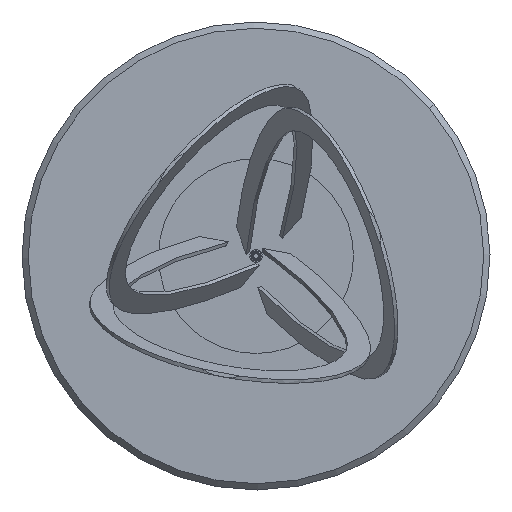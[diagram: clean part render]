
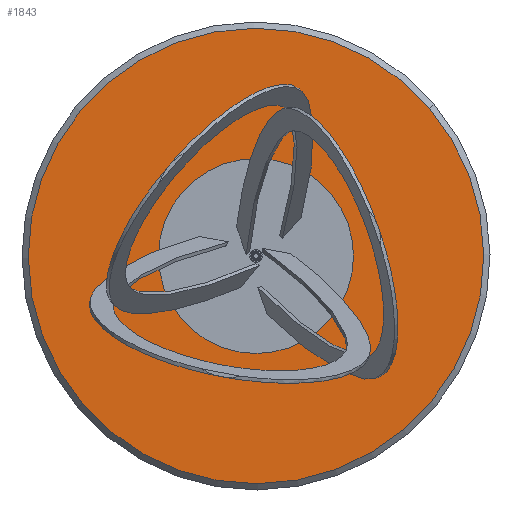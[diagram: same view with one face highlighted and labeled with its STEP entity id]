
A CAD part, front view. The second image highlights one B-rep face of the part: STEP entity #1843.
In plain terms, the highlighted planar face has unit normal (0, -1, 0).
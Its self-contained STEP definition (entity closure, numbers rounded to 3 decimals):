
#135 = EDGE_CURVE ( 'NONE', #1507, #1627, #1384, .T. ) ;
#643 = AXIS2_PLACEMENT_3D ( 'NONE', #854, #1576, #2559 ) ;
#711 = DIRECTION ( 'NONE',  ( 0., -1., 0. ) ) ;
#833 = ORIENTED_EDGE ( 'NONE', *, *, #135, .T. ) ;
#854 = CARTESIAN_POINT ( 'NONE',  ( 0., 0., 0. ) ) ;
#857 = CARTESIAN_POINT ( 'NONE',  ( 0., 0., 0. ) ) ;
#1099 = CARTESIAN_POINT ( 'NONE',  ( 0., 0., -292. ) ) ;
#1102 = CARTESIAN_POINT ( 'NONE',  ( 0., 0., 0. ) ) ;
#1228 = AXIS2_PLACEMENT_3D ( 'NONE', #1102, #711, #4185 ) ;
#1384 = CIRCLE ( 'NONE', #1228, 292. ) ;
#1507 = VERTEX_POINT ( 'NONE', #4114 ) ;
#1576 = DIRECTION ( 'NONE',  ( 0., -1., 0. ) ) ;
#1627 = VERTEX_POINT ( 'NONE', #1099 ) ;
#1843 = ADVANCED_FACE ( 'NONE', ( #3988 ), #2631, .T. ) ;
#2083 = ORIENTED_EDGE ( 'NONE', *, *, #2353, .T. ) ;
#2353 = EDGE_CURVE ( 'NONE', #1627, #1507, #2849, .T. ) ;
#2378 = AXIS2_PLACEMENT_3D ( 'NONE', #857, #3693, #3302 ) ;
#2559 = DIRECTION ( 'NONE',  ( 0., 0., -1. ) ) ;
#2631 = PLANE ( 'NONE',  #2378 ) ;
#2849 = CIRCLE ( 'NONE', #643, 292. ) ;
#3282 = EDGE_LOOP ( 'NONE', ( #833, #2083 ) ) ;
#3302 = DIRECTION ( 'NONE',  ( 0., 0., -1. ) ) ;
#3693 = DIRECTION ( 'NONE',  ( 0., -1., 0. ) ) ;
#3988 = FACE_OUTER_BOUND ( 'NONE', #3282, .T. ) ;
#4114 = CARTESIAN_POINT ( 'NONE',  ( 0., 0., 292. ) ) ;
#4185 = DIRECTION ( 'NONE',  ( 0., 0., -1. ) ) ;
